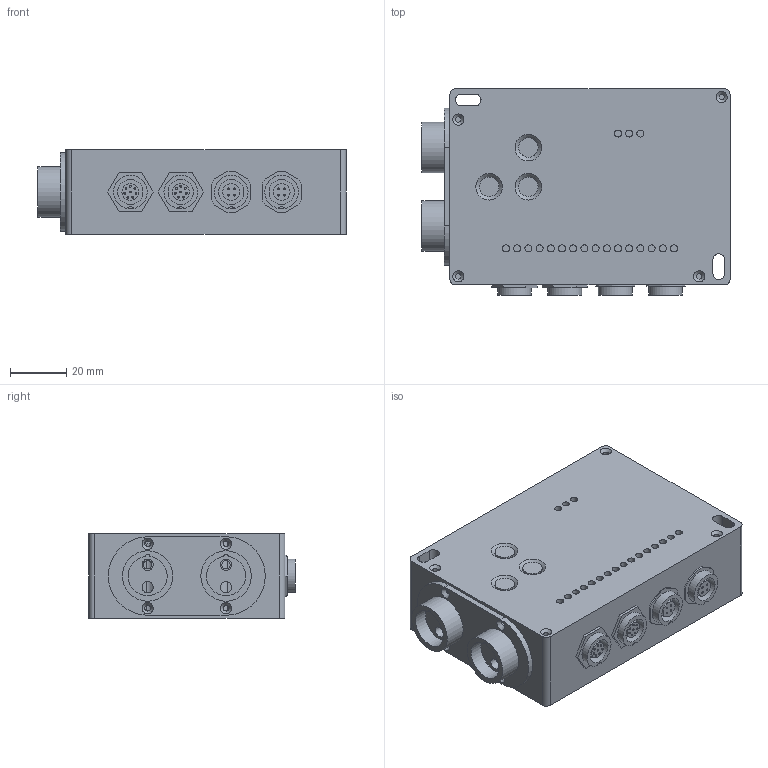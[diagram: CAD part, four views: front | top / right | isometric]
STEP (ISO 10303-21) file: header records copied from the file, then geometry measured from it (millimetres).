
FILE_DESCRIPTION(('STEP Model'),'2;1');
FILE_NAME('CR200.stp','2011-05-16T13:25:41',(''),(''), 'CAD Exchanger 2.2.1 (www.cadexchanger.com)','CAD Exchanger 2.2.1', 'Unknown');
FILE_SCHEMA(('AUTOMOTIVE_DESIGN { 1 0 10303 214 1 1 1 1 }'));
Length unit declared in the file: millimetre
Products named in the file (1): Unspecified 1
Bounding box: 110 x 73.7 x 30 mm (x, y, z)
Volume: 64985.3 mm3; surface area: 50697.4 mm2
Topology: 4 solids, 4 shells, 359 faces, 838 edges, 585 vertices
Faces by surface type: cylinder 181, plane 164, cone 14
Full cylindrical faces by diameter (mm): 0.66 x48, 2 x16, 2.5 x19, 3 x2, 4 x8, 6 x6, 6.936 x3, 7 x5, 7.2 x2, 9 x4, 15 x4, 18 x2
Entity records: 27513 total; most frequent: CARTESIAN_POINT 11626, DIRECTION 2690, ORIENTED_EDGE 1676, PCURVE 1676, DEFINITIONAL_REPRESENTATION 1676, EDGE_CURVE 838, AXIS2_PLACEMENT_3D 830, LINE 816
